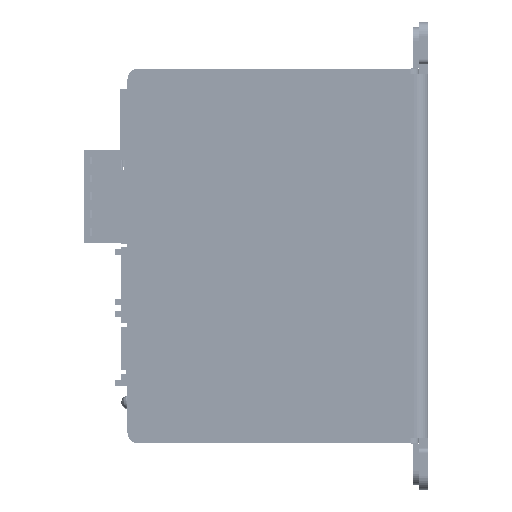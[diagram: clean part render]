
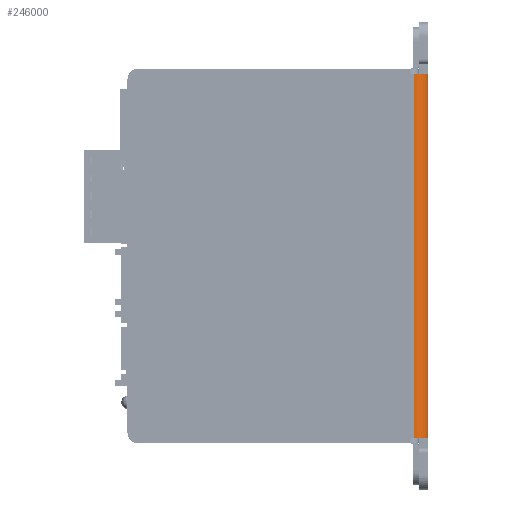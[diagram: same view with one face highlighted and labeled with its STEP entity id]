
A CAD part, left-side view. The second image highlights one B-rep face of the part: STEP entity #246000.
In plain terms, the highlighted cylindrical face has radius 3 mm (diameter 6 mm), a partial arc.
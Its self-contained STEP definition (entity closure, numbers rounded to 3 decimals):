
#42438 = DIRECTION ( 'NONE',  ( 1., 0., 0. ) ) ;
#47291 = CARTESIAN_POINT ( 'NONE',  ( 1., 1., -11.2 ) ) ;
#59473 = DIRECTION ( 'NONE',  ( 1., 0., 0. ) ) ;
#72448 = VERTEX_POINT ( 'NONE', #363391 ) ;
#90317 = ORIENTED_EDGE ( 'NONE', *, *, #129929, .T. ) ;
#108769 = ORIENTED_EDGE ( 'NONE', *, *, #344731, .T. ) ;
#116485 = AXIS2_PLACEMENT_3D ( 'NONE', #248285, #398929, #433504 ) ;
#118214 = ORIENTED_EDGE ( 'NONE', *, *, #384769, .T. ) ;
#120613 = CARTESIAN_POINT ( 'NONE',  ( 1., -2., -88.8 ) ) ;
#123375 = EDGE_LOOP ( 'NONE', ( #118214, #108769, #90317, #412600 ) ) ;
#129929 = EDGE_CURVE ( 'NONE', #155931, #72448, #318582, .T. ) ;
#135936 = CARTESIAN_POINT ( 'NONE',  ( 1., 1., -10. ) ) ;
#151818 = AXIS2_PLACEMENT_3D ( 'NONE', #47291, #348437, #42438 ) ;
#152896 = CIRCLE ( 'NONE', #151818, 3. ) ;
#155931 = VERTEX_POINT ( 'NONE', #310494 ) ;
#170381 = LINE ( 'NONE', #318551, #208737 ) ;
#208737 = VECTOR ( 'NONE', #429571, 1000. ) ;
#246000 = ADVANCED_FACE ( 'NONE', ( #318700 ), #437084, .T. ) ;
#248285 = CARTESIAN_POINT ( 'NONE',  ( 1., 1., -88.8 ) ) ;
#279128 = DIRECTION ( 'NONE',  ( 0., 0., 1. ) ) ;
#284659 = CARTESIAN_POINT ( 'NONE',  ( 1., -2., -11.2 ) ) ;
#308739 = CARTESIAN_POINT ( 'NONE',  ( -2., 1., -10. ) ) ;
#310494 = CARTESIAN_POINT ( 'NONE',  ( -2., 1., -11.2 ) ) ;
#315709 = EDGE_CURVE ( 'NONE', #72448, #415712, #447722, .T. ) ;
#318551 = CARTESIAN_POINT ( 'NONE',  ( 1., -2., 0. ) ) ;
#318582 = LINE ( 'NONE', #308739, #420956 ) ;
#318700 = FACE_OUTER_BOUND ( 'NONE', #123375, .T. ) ;
#344731 = EDGE_CURVE ( 'NONE', #421760, #155931, #152896, .T. ) ;
#348437 = DIRECTION ( 'NONE',  ( 0., 0., -1. ) ) ;
#363391 = CARTESIAN_POINT ( 'NONE',  ( -2., 1., -88.8 ) ) ;
#384769 = EDGE_CURVE ( 'NONE', #415712, #421760, #170381, .T. ) ;
#398929 = DIRECTION ( 'NONE',  ( 0., 0., 1. ) ) ;
#412600 = ORIENTED_EDGE ( 'NONE', *, *, #315709, .T. ) ;
#415712 = VERTEX_POINT ( 'NONE', #120613 ) ;
#420956 = VECTOR ( 'NONE', #469096, 1000. ) ;
#421760 = VERTEX_POINT ( 'NONE', #284659 ) ;
#429571 = DIRECTION ( 'NONE',  ( 0., 0., 1. ) ) ;
#433504 = DIRECTION ( 'NONE',  ( 1., 0., 0. ) ) ;
#437084 = CYLINDRICAL_SURFACE ( 'NONE', #446387, 3. ) ;
#446387 = AXIS2_PLACEMENT_3D ( 'NONE', #135936, #279128, #59473 ) ;
#447722 = CIRCLE ( 'NONE', #116485, 3. ) ;
#469096 = DIRECTION ( 'NONE',  ( 0., 0., -1. ) ) ;
